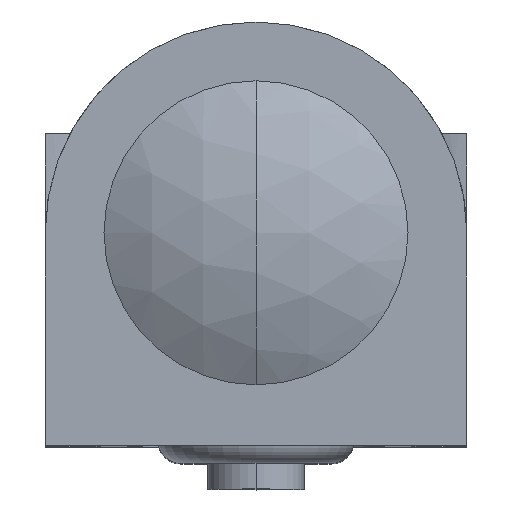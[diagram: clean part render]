
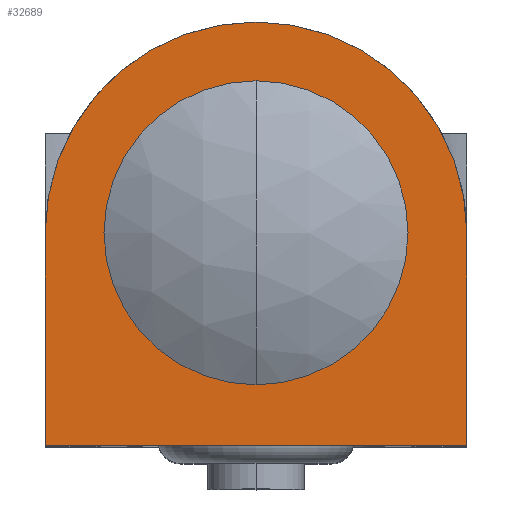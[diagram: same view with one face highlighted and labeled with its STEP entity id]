
A CAD part, top view. The second image highlights one B-rep face of the part: STEP entity #32689.
In plain terms, the highlighted planar face has unit normal (0, 0, 1).
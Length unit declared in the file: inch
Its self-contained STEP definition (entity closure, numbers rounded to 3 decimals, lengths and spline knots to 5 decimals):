
#367 = VECTOR ( 'NONE', #17743, 39.37008 ) ;
#612 = VERTEX_POINT ( 'NONE', #2525 ) ;
#630 = EDGE_CURVE ( 'NONE', #17682, #22155, #9665, .T. ) ;
#2368 = DIRECTION ( 'NONE',  ( 0., 0., 1. ) ) ;
#2525 = CARTESIAN_POINT ( 'NONE',  ( -0.147, -0.1485, 0.566 ) ) ;
#2620 = CARTESIAN_POINT ( 'NONE',  ( 0.147, 0., 0.566 ) ) ;
#2678 = CARTESIAN_POINT ( 'NONE',  ( 0.147, -0.1485, 0.566 ) ) ;
#3196 = ORIENTED_EDGE ( 'NONE', *, *, #32072, .T. ) ;
#3949 = DIRECTION ( 'NONE',  ( 0., 0., 1. ) ) ;
#4928 = CARTESIAN_POINT ( 'NONE',  ( 0., 0., 0.566 ) ) ;
#5584 = VERTEX_POINT ( 'NONE', #2678 ) ;
#6830 = AXIS2_PLACEMENT_3D ( 'NONE', #23996, #21265, #10992 ) ;
#7423 = LINE ( 'NONE', #25379, #11715 ) ;
#7661 = DIRECTION ( 'NONE',  ( 0., 0., 1. ) ) ;
#8397 = EDGE_CURVE ( 'NONE', #612, #5584, #7423, .T. ) ;
#8835 = EDGE_CURVE ( 'NONE', #21262, #31381, #22087, .T. ) ;
#9593 = FACE_BOUND ( 'NONE', #17836, .T. ) ;
#9665 = CIRCLE ( 'NONE', #33176, 0.147 ) ;
#10992 = DIRECTION ( 'NONE',  ( 1., 0., 0. ) ) ;
#11715 = VECTOR ( 'NONE', #28274, 39.37008 ) ;
#13999 = AXIS2_PLACEMENT_3D ( 'NONE', #20014, #3949, #14855 ) ;
#14022 = VECTOR ( 'NONE', #25765, 39.37008 ) ;
#14852 = CARTESIAN_POINT ( 'NONE',  ( 0.147, 0., 0.566 ) ) ;
#14855 = DIRECTION ( 'NONE',  ( 1., 0., 0. ) ) ;
#15086 = CARTESIAN_POINT ( 'NONE',  ( -0.147, 0., 0.566 ) ) ;
#17682 = VERTEX_POINT ( 'NONE', #2620 ) ;
#17743 = DIRECTION ( 'NONE',  ( 0., 1., 0. ) ) ;
#17836 = EDGE_LOOP ( 'NONE', ( #21769, #28414 ) ) ;
#18046 = DIRECTION ( 'NONE',  ( 1., 0., 0. ) ) ;
#19839 = CIRCLE ( 'NONE', #25843, 0.106 ) ;
#20014 = CARTESIAN_POINT ( 'NONE',  ( 0., 0., 0.566 ) ) ;
#21262 = VERTEX_POINT ( 'NONE', #28843 ) ;
#21265 = DIRECTION ( 'NONE',  ( 0., 0., 1. ) ) ;
#21669 = EDGE_CURVE ( 'NONE', #31381, #21262, #19839, .T. ) ;
#21769 = ORIENTED_EDGE ( 'NONE', *, *, #8835, .F. ) ;
#22087 = CIRCLE ( 'NONE', #6830, 0.106 ) ;
#22155 = VERTEX_POINT ( 'NONE', #15086 ) ;
#22209 = ORIENTED_EDGE ( 'NONE', *, *, #630, .T. ) ;
#23052 = DIRECTION ( 'NONE',  ( 1., 0., 0. ) ) ;
#23996 = CARTESIAN_POINT ( 'NONE',  ( 0., 0., 0.566 ) ) ;
#24684 = ORIENTED_EDGE ( 'NONE', *, *, #33062, .T. ) ;
#25379 = CARTESIAN_POINT ( 'NONE',  ( -0.147, -0.1485, 0.566 ) ) ;
#25765 = DIRECTION ( 'NONE',  ( 0., -1., 0. ) ) ;
#25843 = AXIS2_PLACEMENT_3D ( 'NONE', #4928, #2368, #23052 ) ;
#25979 = LINE ( 'NONE', #14852, #367 ) ;
#27140 = EDGE_LOOP ( 'NONE', ( #31723, #3196, #22209, #24684 ) ) ;
#27384 = PLANE ( 'NONE',  #13999 ) ;
#28274 = DIRECTION ( 'NONE',  ( 1., 0., 0. ) ) ;
#28414 = ORIENTED_EDGE ( 'NONE', *, *, #21669, .F. ) ;
#28843 = CARTESIAN_POINT ( 'NONE',  ( 0., 0.106, 0.566 ) ) ;
#30740 = LINE ( 'NONE', #30917, #14022 ) ;
#30917 = CARTESIAN_POINT ( 'NONE',  ( -0.147, 0., 0.566 ) ) ;
#31091 = CARTESIAN_POINT ( 'NONE',  ( 0., 0., 0.566 ) ) ;
#31381 = VERTEX_POINT ( 'NONE', #33428 ) ;
#31723 = ORIENTED_EDGE ( 'NONE', *, *, #8397, .T. ) ;
#32072 = EDGE_CURVE ( 'NONE', #5584, #17682, #25979, .T. ) ;
#32344 = FACE_OUTER_BOUND ( 'NONE', #27140, .T. ) ;
#32689 = ADVANCED_FACE ( 'NONE', ( #9593, #32344 ), #27384, .T. ) ;
#33062 = EDGE_CURVE ( 'NONE', #22155, #612, #30740, .T. ) ;
#33176 = AXIS2_PLACEMENT_3D ( 'NONE', #31091, #7661, #18046 ) ;
#33428 = CARTESIAN_POINT ( 'NONE',  ( 0., -0.106, 0.566 ) ) ;
